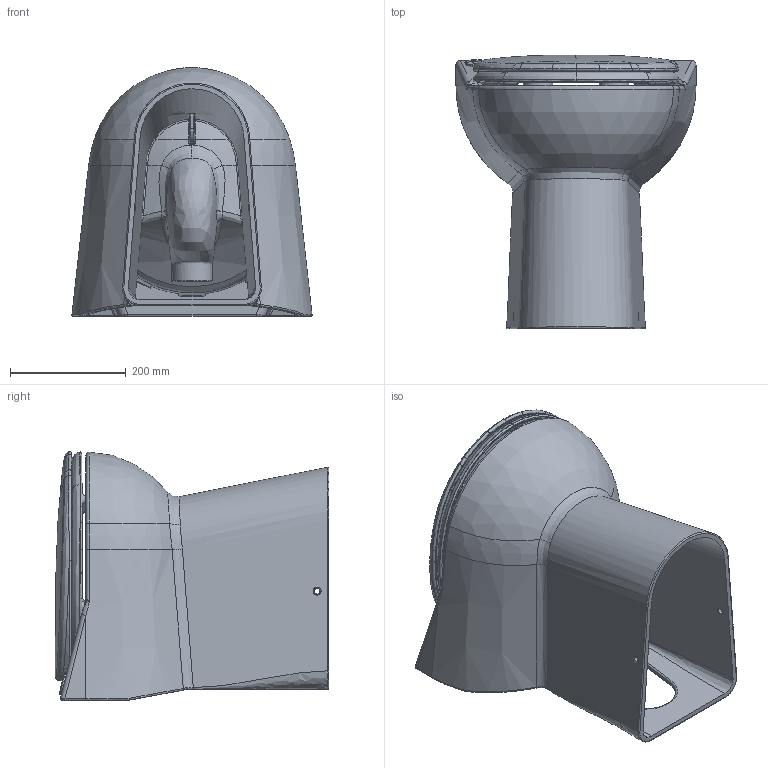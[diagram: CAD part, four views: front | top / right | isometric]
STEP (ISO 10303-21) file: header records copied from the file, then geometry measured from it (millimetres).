
FILE_DESCRIPTION (( 'STEP AP214' ), '1' );
FILE_NAME ('Compact C43 sans encoches.STEP', '2025-02-13T15:31:20', ( '' ), ( '' ), 'SwSTEP 2.0', 'SolidWorks 2024', '' );
FILE_SCHEMA (( 'AUTOMOTIVE_DESIGN' ));
Length unit declared in the file: millimetre
Products named in the file (1): Compact C43 sans encoches
Bounding box: 415.29 x 472.91 x 430.34 mm (x, y, z)
Volume: 8431582.1 mm3; surface area: 1864944.5 mm2
Topology: 1 solids, 27 shells, 1489 faces, 3718 edges, 2238 vertices
Faces by surface type: bspline 680, plane 392, cylinder 293, cone 75, torus 32, sphere 17
Full cylindrical faces by diameter (mm): 5 x27, 6.8 x4, 8.5 x2, 9 x4, 10 x2, 12 x2, 18.8 x1, 19 x1, 25 x1, 27.3 x4, 27.5 x1, 33 x1, 51.1 x2
Entity records: 224059 total; most frequent: CARTESIAN_POINT 195636, ORIENTED_EDGE 7120, DIRECTION 3949, EDGE_CURVE 3560, VERTEX_POINT 2196, EDGE_LOOP 1664, B_SPLINE_CURVE_WITH_KNOTS 1637, FACE_OUTER_BOUND 1560
